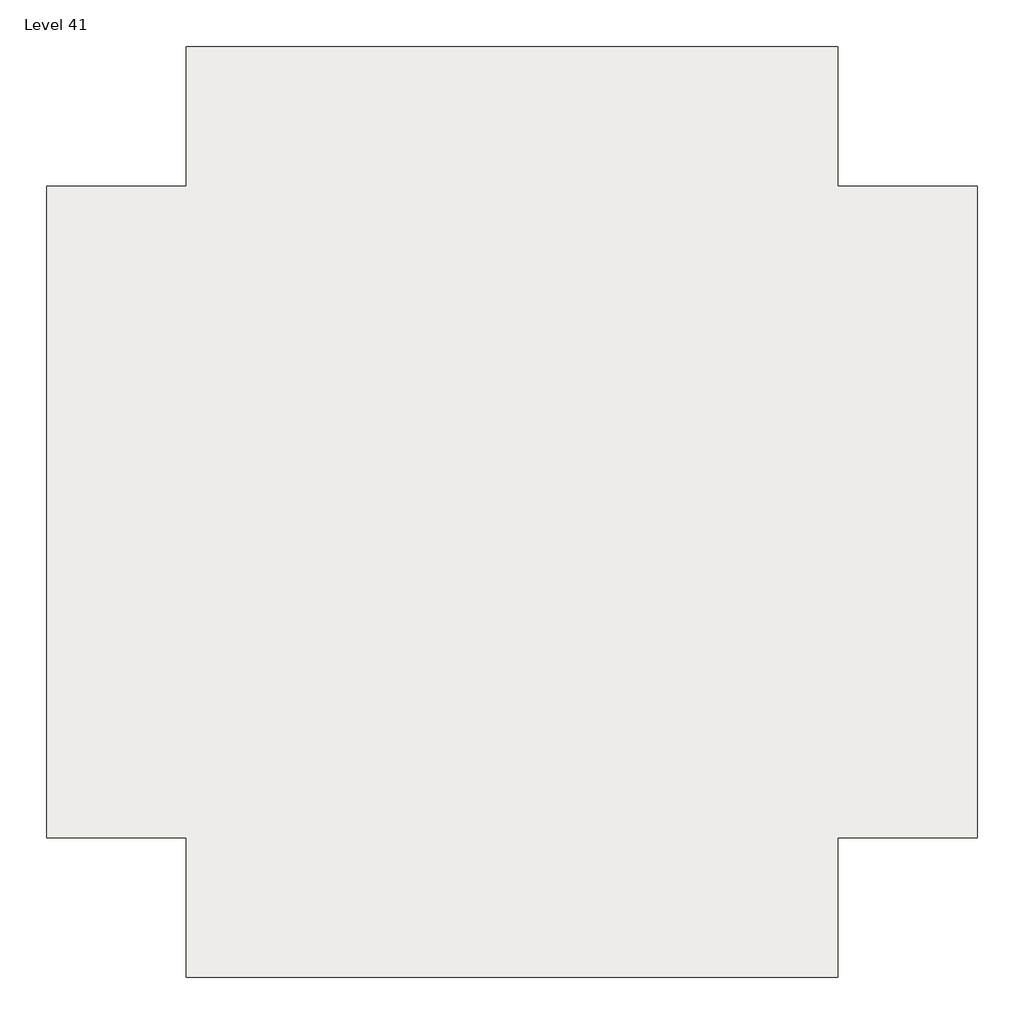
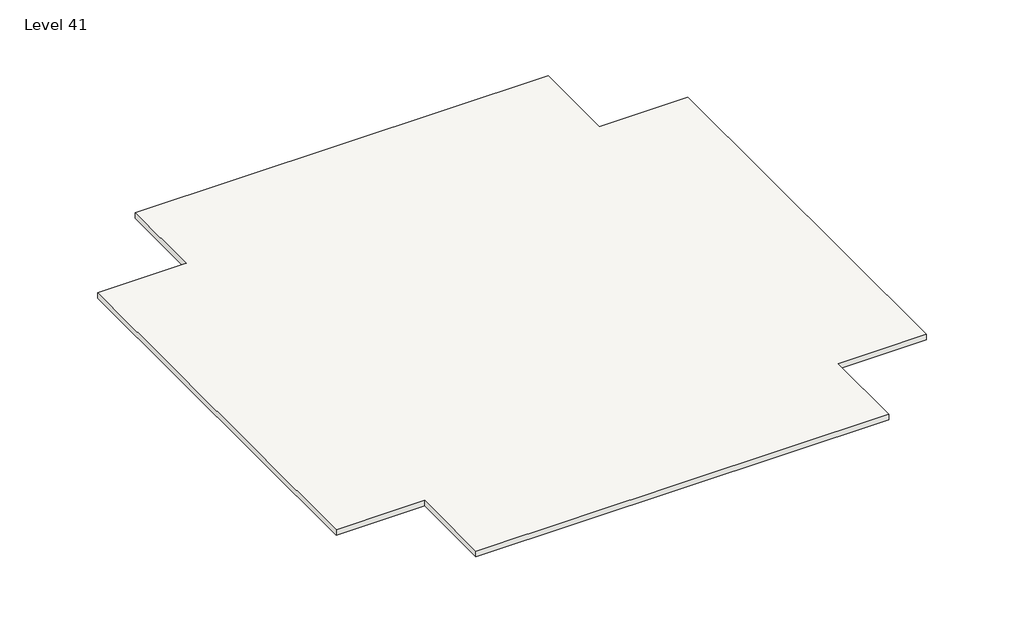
# One storey: 2 slabs.
"""IFC4 building model written with IfcOpenShell, lengths in millimetres."""

from ifc_helpers import new_model, si_unit, frame, origin, place, context, project, spatial, polyline, outline, extrude, element, save

model = new_model("IFC4")

# Units and contexts
model_context = context("Model", 3, world=origin())
ifc_project = project(units=[si_unit("LENGTHUNIT", "METRE", prefix="MILLI")], contexts=[model_context])

# Site, building, storey
site = spatial("IfcSite", under=ifc_project)
building = spatial("IfcBuilding", under=site)
storey = spatial("IfcBuildingStorey", under=building, Name="Level 41", Elevation=121920.0)

# Slabs
placement = place(None, origin())
element("IfcSlab", 1, ObjectType="Generic - 12\"", at=placement, inside=storey, context=model_context, shape_type="SweptSolid", body=[
    extrude(outline(polyline([(-7150.3629456, 4479.6634547), (-7150.3629456, 9051.6634547), (14185.6370544, 9051.6634547), (14185.6370544, 4479.6634547), (18757.6370544, 4479.6634547), (18757.6370544, -16856.3365453), (14185.6370544, -16856.3365453), (14185.6370544, -21428.3365453), (-7150.3629456, -21428.3365453), (-7150.3629456, -16856.3365453), (-11722.3629456, -16856.3365453), (-11722.3629456, 4479.6634547), (-7150.3629456, 4479.6634547)])), frame((0.0, 0.0, 121615.2), z_axis=(0.0, 0.0, 1.0), x_axis=(1.0, 0.0, 0.0)), (0.0, 0.0, 1.0), 304.8),
])
element("IfcSlab", 2, ObjectType="Generic - 12\"", at=placement, inside=storey, context=model_context, shape_type="SweptSolid", body=[
    extrude(outline(polyline([(-7150.3629456, 4479.6634547), (-7150.3629456, 9051.6634547), (14185.6370544, 9051.6634547), (14185.6370544, 4479.6634547), (18757.6370544, 4479.6634547), (18757.6370544, -16856.3365453), (14185.6370544, -16856.3365453), (14185.6370544, -21428.3365453), (-7150.3629456, -21428.3365453), (-7150.3629456, -16856.3365453), (-11722.3629456, -16856.3365453), (-11722.3629456, 4479.6634547), (-7150.3629456, 4479.6634547)])), frame((0.0, 0.0, 121615.2), z_axis=(0.0, 0.0, 1.0), x_axis=(1.0, 0.0, 0.0)), (0.0, 0.0, 1.0), 304.8),
])

save(model, "model.ifc")
